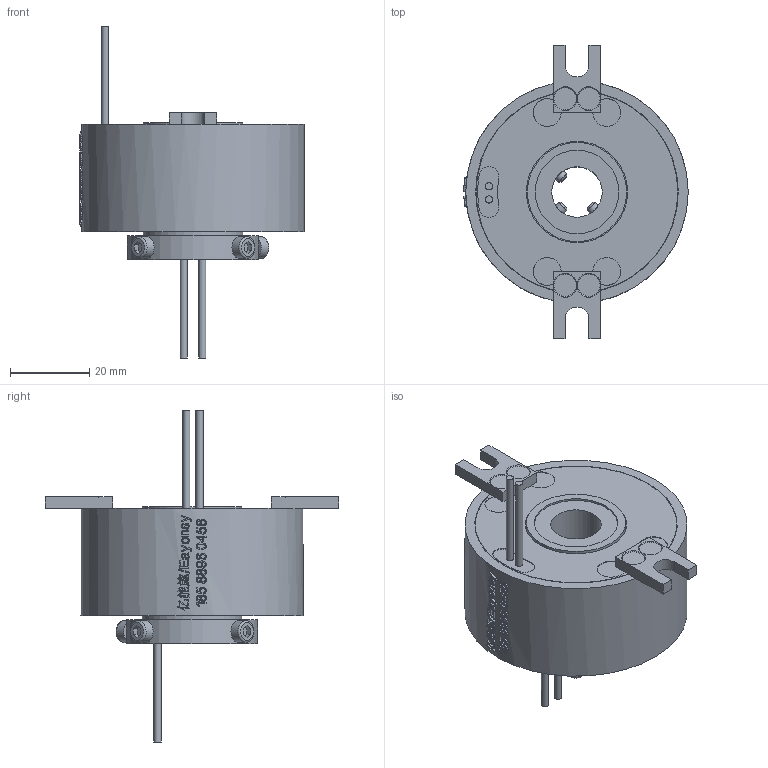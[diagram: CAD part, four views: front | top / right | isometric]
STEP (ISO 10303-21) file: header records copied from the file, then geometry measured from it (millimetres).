
FILE_DESCRIPTION(/* description */ (''),/* implementation_level */ '2;1');
FILE_NAME(/* name */ 'YDS1256-0210-3D模型.stp',/* time_stamp */ '2025-09-03T18:09:28+08:00',/* author */ (''),/* organization */ (''),/* preprocessor_version */ 'ST-DEVELOPER v16.7',/* originating_system */ 'SIEMENS PLM Software NX 12.0',/* authorisation */ '');
FILE_SCHEMA (('AUTOMOTIVE_DESIGN { 1 0 10303 214 3 1 1 1 }'));
Length unit declared in the file: millimetre
Products named in the file (1): Admi57E0E5BE097c
Bounding box: 56.5 x 74 x 83.6 mm (x, y, z)
Volume: 69224.2 mm3; surface area: 16090.5 mm2
Topology: 1 solids, 3 shells, 922 faces, 2474 edges, 1643 vertices
Faces by surface type: extrusion 479, plane 325, cylinder 73, bspline 33, cone 8, torus 4
Full cylindrical faces by diameter (mm): 1.8 x4, 2.5 x2, 2.6 x1, 3 x11, 5.5 x4, 7 x8, 12.7 x1, 21 x1, 25 x2, 25.5 x2, 28 x2, 28.1 x2, 33 x1, 50.8 x2, 51 x2, 56 x1
Entity records: 37438 total; most frequent: CARTESIAN_POINT 18141, ORIENTED_EDGE 4780, EDGE_CURVE 2390, B_SPLINE_CURVE_WITH_KNOTS 2305, DIRECTION 2145, VERTEX_POINT 1617, EDGE_LOOP 1079, ADVANCED_FACE 922
